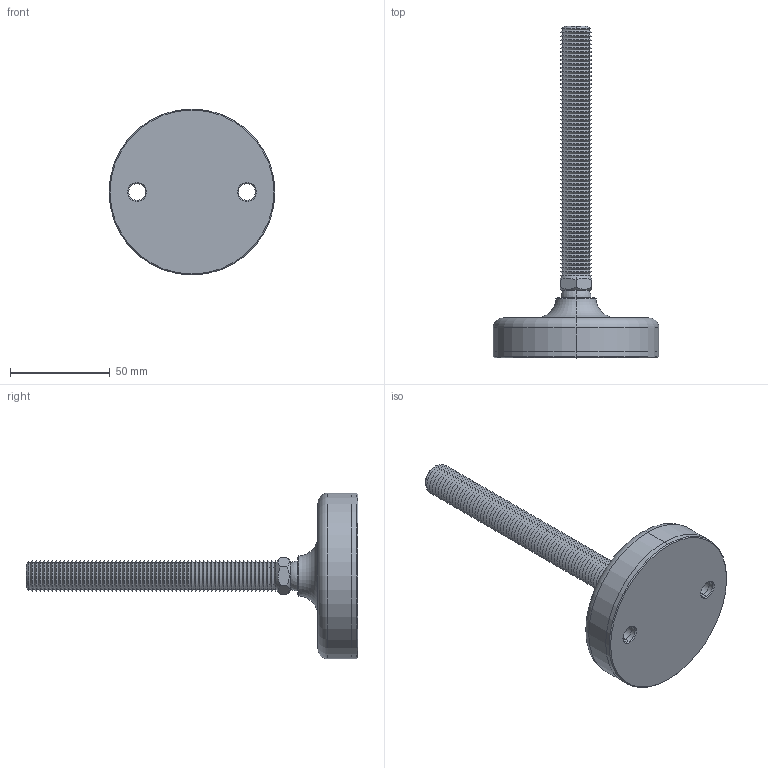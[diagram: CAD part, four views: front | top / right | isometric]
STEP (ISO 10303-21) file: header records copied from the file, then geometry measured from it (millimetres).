
FILE_DESCRIPTION (( 'STEP AP203' ), '1' );
FILE_NAME ('34724.W1603.step', '2019-11-28T22:11:57', ( '' ), ( '' ), 'SwSTEP 2.0', 'SolidWorks 2017', '' );
FILE_SCHEMA (( 'CONFIG_CONTROL_DESIGN' ));
Length unit declared in the file: millimetre
Products named in the file (4): Part3_34724.W1603; Part1_34724.W1603; 34724.W1603; Part2_34724.W1603
Assembly tree (3 placements, depth 2):
  34724.W1603
    Part1_34724.W1603
    Part2_34724.W1603
    Part3_34724.W1603
Bounding box: 83 x 166 x 83 mm (x, y, z)
Volume: 131495.2 mm3; surface area: 39684.2 mm2
Topology: 3 solids, 3 shells, 300 faces, 615 edges, 321 vertices
Faces by surface type: cone 266, plane 14, cylinder 12, sphere 4, torus 4
Entity records: 8162 total; most frequent: DIRECTION 1516, CARTESIAN_POINT 1376, ORIENTED_EDGE 1212, AXIS2_PLACEMENT_3D 616, EDGE_CURVE 606, VERTEX_POINT 316, EDGE_LOOP 312, CIRCLE 310
